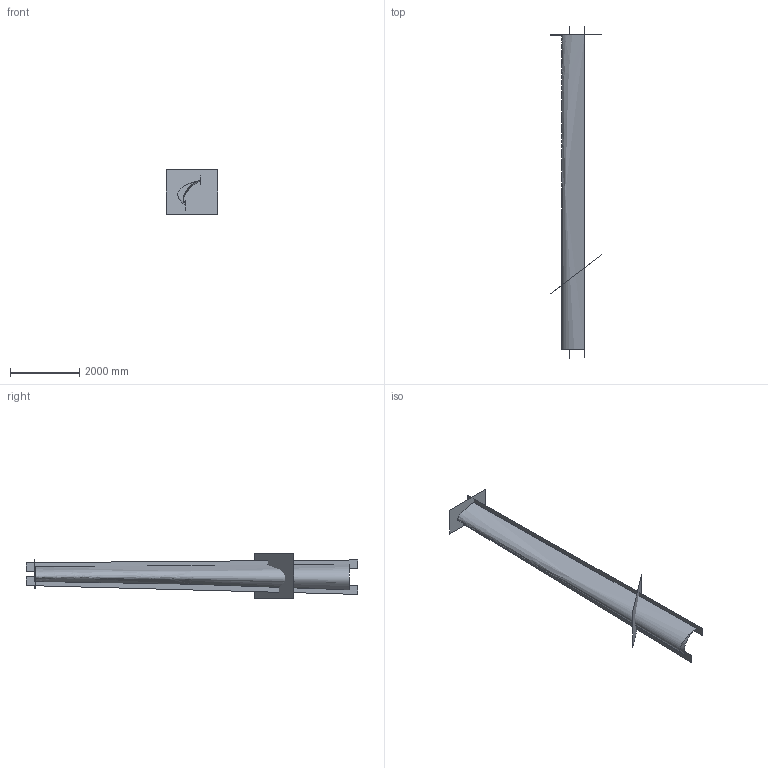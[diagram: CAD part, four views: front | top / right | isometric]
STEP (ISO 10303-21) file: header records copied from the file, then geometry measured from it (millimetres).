
FILE_DESCRIPTION((''),'2;1');
FILE_NAME('','2022-03-10T05:27:36',(''),(''),'','CADfix','');
FILE_SCHEMA(('AUTOMOTIVE_DESIGN { 1 0 10303 214 1 1 1 1 }'));
Length unit declared in the file: inch
Bounding box: 1485.9 x 9590.81 x 1273.5 mm (x, y, z)
Surface area: 25936959.2 mm2 (no closed solid volume)
Topology: 0 solids, 0 shells, 6 faces, 24 edges, 24 vertices
Faces by surface type: bspline 6
Entity records: 7998 total; most frequent: CARTESIAN_POINT 7973, B_SPLINE_SURFACE_WITH_KNOTS 6, DIMENSIONAL_EXPONENTS 2, PLANE_ANGLE_MEASURE_WITH_UNIT 1, LENGTH_MEASURE_WITH_UNIT 1, UNCERTAINTY_MEASURE_WITH_UNIT 1, GEOMETRIC_SET 1, GEOMETRICALLY_BOUNDED_SURFACE_SHAPE_REPRESENTATION 1
